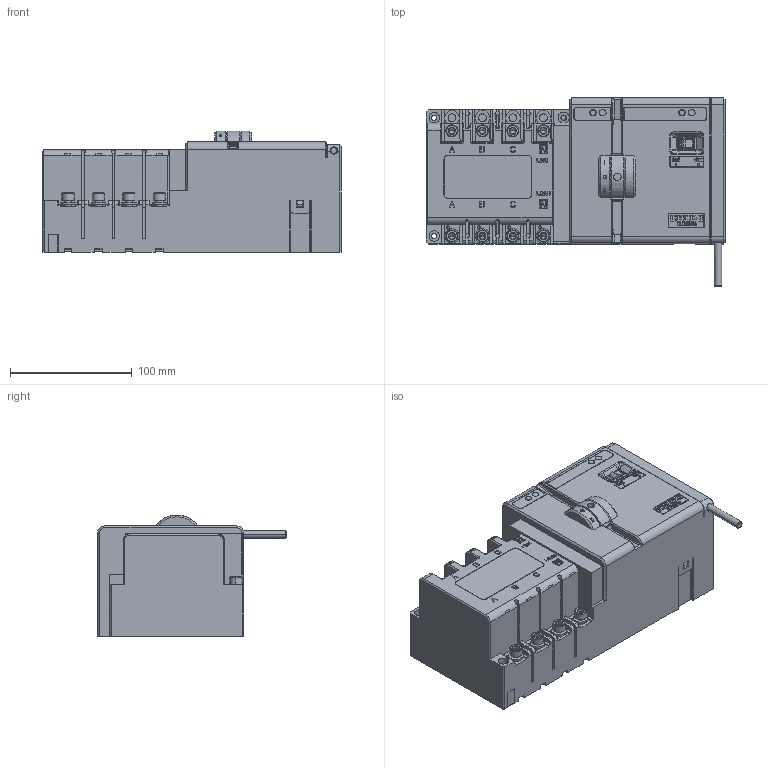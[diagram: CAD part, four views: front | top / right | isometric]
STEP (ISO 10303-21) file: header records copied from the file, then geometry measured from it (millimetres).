
FILE_DESCRIPTION((''),'2;1');
FILE_NAME('2597007200_ASM_1_SW0001','2021-08-23T',('gang.sun'),(''),'PRO/ENGINEER BY PARAMETRIC TECHNOLOGY CORPORATION, 2015440','PRO/ENGINEER BY PARAMETRIC TECHNOLOGY CORPORATION, 2015440','');
FILE_SCHEMA(('CONFIG_CONTROL_DESIGN'));
Products named in the file (1): 2597007200_ASM_1_SW0001
Bounding box: 245.2 x 155.1 x 100 mm (x, y, z)
Volume: 2100583 mm3; surface area: 260938.2 mm2
Topology: 17 solids, 19 shells, 4244 faces, 11752 edges, 7722 vertices
Faces by surface type: plane 2863, cylinder 867, cone 186, extrusion 143, bspline 125, torus 51, sphere 9
Entity records: 150228 total; most frequent: CARTESIAN_POINT 41787, ORIENTED_EDGE 23454, DIRECTION 21239, EDGE_CURVE 11727, VECTOR 8525, LINE 8382, VERTEX_POINT 7722, AXIS2_PLACEMENT_3D 6357
